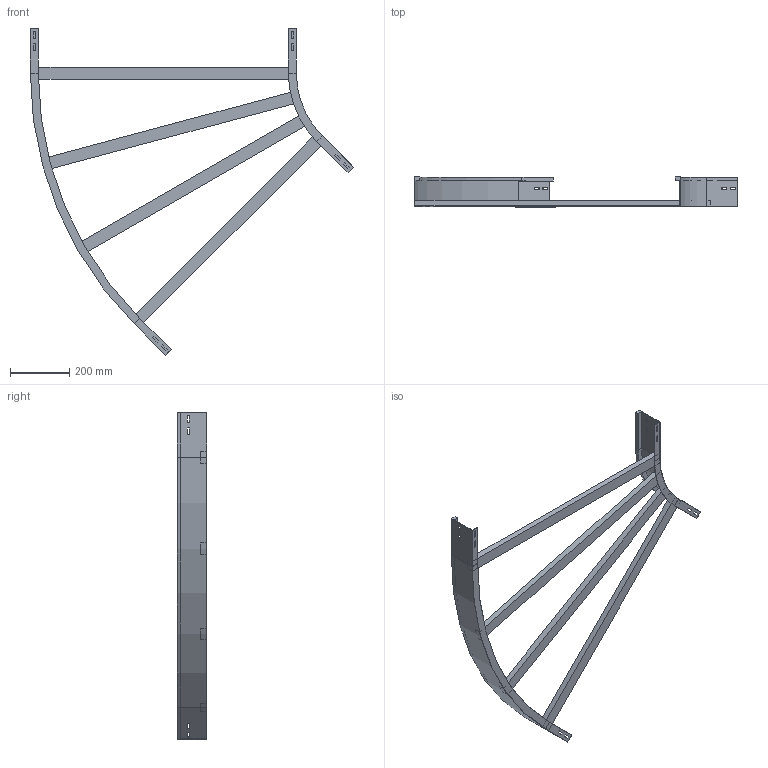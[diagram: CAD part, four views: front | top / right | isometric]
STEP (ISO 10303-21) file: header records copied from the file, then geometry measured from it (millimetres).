
FILE_DESCRIPTION (( 'STEP AP214' ), '1' );
FILE_NAME ('A2_11B3D900.step', '2025-02-21T15:12:43', ( '' ), ( '' ), 'SwSTEP 2.0', 'SolidWorks 2023', '' );
FILE_SCHEMA (( 'AUTOMOTIVE_DESIGN' ));
Length unit declared in the file: millimetre
Products named in the file (4): A2_11B3D900; TRAVERSINO_900; A2_LONGH.ESTERNO 45°_H100_R300+900; A2_LONGH.INTERNO 45°_H100_R300
Assembly tree (6 placements, depth 2):
  A2_11B3D900
    A2_LONGH.INTERNO 45°_H100_R300
    A2_LONGH.ESTERNO 45°_H100_R300+900
    TRAVERSINO_900  x4
Bounding box: 1093.93 x 100 x 1104.59 mm (x, y, z)
Volume: 3684031 mm3; surface area: 947375.8 mm2
Topology: 6 solids, 6 shells, 140 faces, 352 edges, 224 vertices
Faces by surface type: plane 132, cylinder 8
Entity records: 3829 total; most frequent: CARTESIAN_POINT 647, ORIENTED_EDGE 632, DIRECTION 594, EDGE_CURVE 316, LINE 300, VECTOR 300, VERTEX_POINT 200, EDGE_LOOP 154
